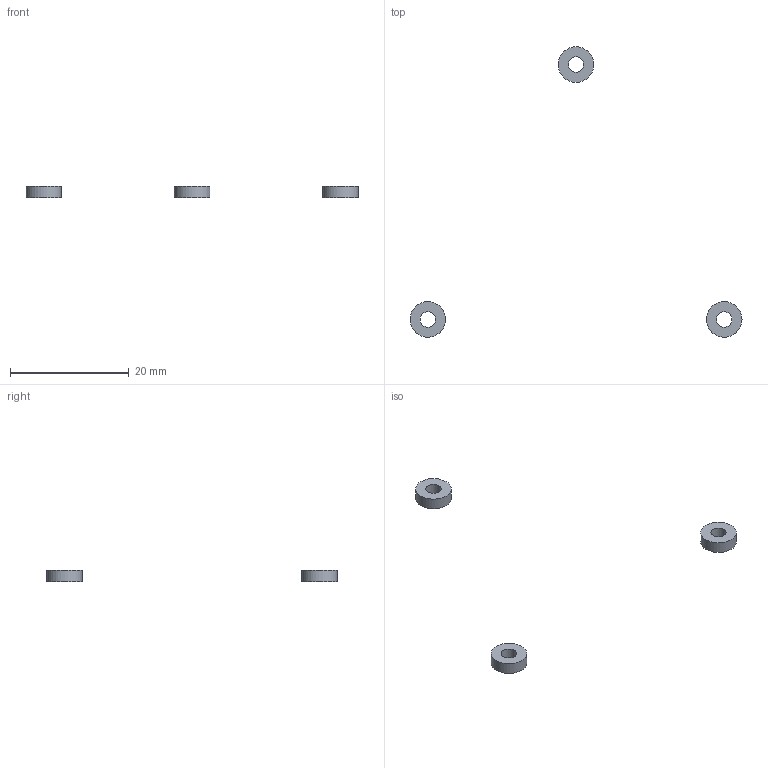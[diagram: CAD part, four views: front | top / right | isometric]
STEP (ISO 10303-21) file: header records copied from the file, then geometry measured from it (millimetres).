
FILE_DESCRIPTION(('Open CASCADE Model'),'2;1');
FILE_NAME('Open CASCADE Shape Model','2026-11-05T01:23:31',('Author'),( 'Open CASCADE'),'Open CASCADE STEP processor 7.8','Open CASCADE 7.8' ,'Unknown');
FILE_SCHEMA(('AUTOMOTIVE_DESIGN { 1 0 10303 214 1 1 1 1 }'));
Length unit declared in the file: millimetre
Products named in the file (4): Open CASCADE STEP translator 7.8 13; Open CASCADE STEP translator 7.8 13.1; Open CASCADE STEP translator 7.8 13.2; Open CASCADE STEP translator 7.8 13.3
Assembly tree (3 placements, depth 2):
  Open CASCADE STEP translator 7.8 13
    Open CASCADE STEP translator 7.8 13.1
    Open CASCADE STEP translator 7.8 13.2
    Open CASCADE STEP translator 7.8 13.3
Bounding box: 56 x 49 x 2 mm (x, y, z)
Volume: 137.8 mm3; surface area: 299.9 mm2
Topology: 3 solids, 3 shells, 12 faces, 18 edges, 12 vertices
Faces by surface type: cylinder 6, plane 6
Full cylindrical faces by diameter (mm): 2.6 x3, 6 x3
Entity records: 598 total; most frequent: CARTESIAN_POINT 118, DIRECTION 92, ORIENTED_EDGE 36, PCURVE 36, DEFINITIONAL_REPRESENTATION 36, LINE 30, VECTOR 30, AXIS2_PLACEMENT_3D 28
